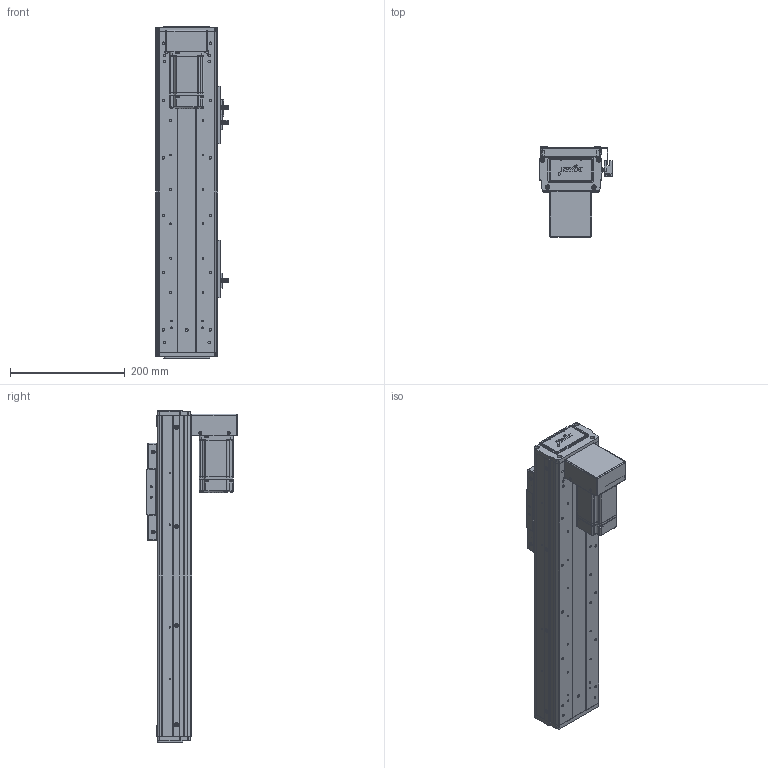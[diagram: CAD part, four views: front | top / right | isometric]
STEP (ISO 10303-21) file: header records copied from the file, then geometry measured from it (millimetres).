
FILE_DESCRIPTION (( 'STEP AP203' ), '1' );
FILE_NAME ('RY100FS-L1620-300-BK(15双轨).SLDASM_300.step', '2021-03-02T07:33:16', ( '盈信电脑' ), ( '东莞市道滘镇水果街19号' ), 'SwSTEP 2.0', 'SolidWorks 2012', '' );
FILE_SCHEMA (( 'CONFIG_CONTROL_DESIGN' ));
Length unit declared in the file: millimetre
Products named in the file (21): RY100FS-15双轨下折钢带安装板; 1; RY100FS-L1620-300-BK(15邧寢).SLDASM_300; 滅袉蝶18-15; 蚥薯蝶紫輸; RY100FS-15邧寢狟殏萇儂啣; RY100FS-双轨螺母座(16丝杆）; RY100FS-15邧寢狟殏萇儂欶; RY80俋离覜茼え; 覜茼ん672; RY100F-詩湍揤踡輸; 672嫖萇羲壽假蚾釱; RY100F-詩湍揤踡謫; RY100F-詩湍幗謫粣; RY100F-綴裔啣; RY100FS-双轨铝滑块(上板）; RY100FS-300-BK15邧寢祥凄詩湍; 棠沺沭; RY100F-滅鳥裔啣; RY100FS-300-BK15絳寢倰第奻裔啣; RY100FS-300-BK15絳寢倰第菁釱
Assembly tree (30 placements, depth 2):
  RY100FS-L1620-300-BK(15邧寢).SLDASM_300
    RY100FS-300-BK15絳寢倰第菁釱
    RY100FS-300-BK15絳寢倰第奻裔啣  x2
    RY100FS-300-BK15邧寢祥凄詩湍
    RY100FS-双轨铝滑块(上板）
    RY100F-滅鳥裔啣
    棠沺沭  x2
    RY100F-詩湍幗謫粣
    RY100F-詩湍揤踡謫  x2
    RY100F-綴裔啣  x2
    672嫖萇羲壽假蚾釱  x2
    RY80俋离覜茼え  x2
    覜茼ん672  x3
    RY100F-詩湍揤踡輸  x2
    RY100FS-双轨螺母座(16丝杆）
    RY100FS-15邧寢狟殏萇儂啣
    RY100FS-15邧寢狟殏萇儂欶
    蚥薯蝶紫輸
    RY100FS-15双轨下折钢带安装板
    滅袉蝶18-15  x2
    1
Bounding box: 126.2 x 158.5 x 579 mm (x, y, z)
Volume: 1751940.9 mm3; surface area: 701047.6 mm2
Topology: 30 solids, 30 shells, 2196 faces, 5955 edges, 3872 vertices
Faces by surface type: plane 1086, cylinder 942, cone 132, bspline 36
Entity records: 58644 total; most frequent: CARTESIAN_POINT 11999, DIRECTION 9256, ORIENTED_EDGE 9150, EDGE_CURVE 4575, AXIS2_PLACEMENT_3D 3237, VERTEX_POINT 3010, LINE 2782, VECTOR 2782
